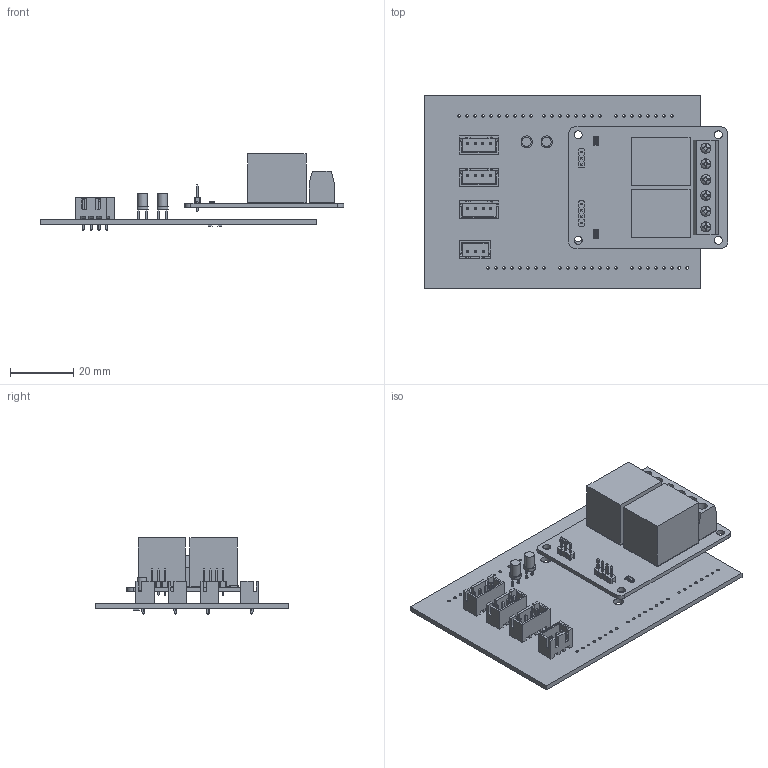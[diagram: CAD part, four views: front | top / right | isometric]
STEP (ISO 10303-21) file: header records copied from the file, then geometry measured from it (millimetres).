
FILE_DESCRIPTION(('KiCad electronic assembly'),'2;1');
FILE_NAME('shiel fisol2.step','2025-05-09T18:31:13',('Pcbnew'),('Kicad') ,'Open CASCADE STEP processor 7.8','KiCad to STEP converter','Unknown' );
FILE_SCHEMA(('AUTOMOTIVE_DESIGN { 1 0 10303 214 1 1 1 1 }'));
Length unit declared in the file: millimetre
Products named in the file (12): shiel fisol2 1; 2 Relay Module v2; LED_D3.0mm_FlatTop; JST_XH_B4B-XH-A_1x04_P2.50mm_Vertical; JST_B4B_XH_A; JST_XH_B3B-XH-A_1x03_P2.50mm_Vertical; JST_B3B_XH_A; R_0805_2012Metric; _autosave-shiel fisol_PCB
Assembly tree (15 placements, depth 3):
  shiel fisol2 1
    2 Relay Module v2
      2 Relay Module v2
    LED_D3.0mm_FlatTop  x2
      LED_D3.0mm_FlatTop
    JST_XH_B4B-XH-A_1x04_P2.50mm_Vertical  x3
      JST_B4B_XH_A
    JST_XH_B3B-XH-A_1x03_P2.50mm_Vertical
      JST_B3B_XH_A
    R_0805_2012Metric  x2
      R_0805_2012Metric
    _autosave-shiel fisol_PCB
Bounding box: 96.36 x 61.4 x 24.22 mm (x, y, z)
Volume: 22979.5 mm3; surface area: 25345.4 mm2
Topology: 33 solids, 33 shells, 1432 faces, 3712 edges, 2406 vertices
Faces by surface type: plane 1068, cylinder 292, cone 36, bspline 18, torus 12, sphere 6
Full cylindrical faces by diameter (mm): 0.75 x7, 0.85 x50, 0.9 x4, 0.95 x15, 1.145 x60, 1.6 x60, 2.5 x4, 3 x2, 3.2 x8, 3.21 x6
Entity records: 49248 total; most frequent: CARTESIAN_POINT 19858, ORIENTED_EDGE 5750, DIRECTION 5178, EDGE_CURVE 2875, LINE 2028, VECTOR 2028, VERTEX_POINT 1867, AXIS2_PLACEMENT_3D 1575
